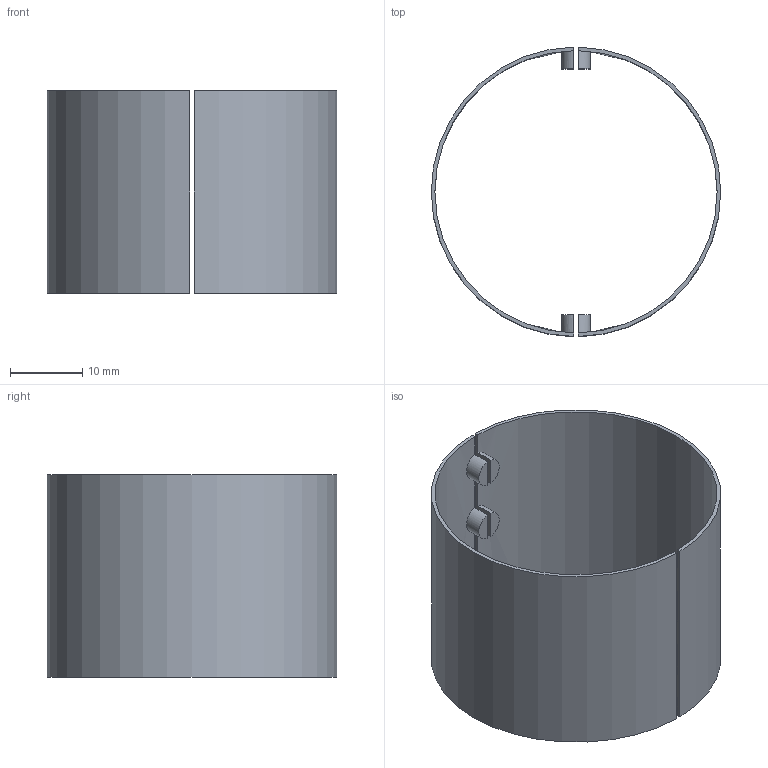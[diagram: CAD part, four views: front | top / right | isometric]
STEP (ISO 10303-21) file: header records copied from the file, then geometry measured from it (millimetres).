
FILE_DESCRIPTION(('Open CASCADE Model'),'2;1');
FILE_NAME('Open CASCADE Shape Model','2026-09-22T23:00:06',('Author'),( 'Open CASCADE'),'Open CASCADE STEP processor 7.9','Open CASCADE 7.9' ,'Unknown');
FILE_SCHEMA(('AUTOMOTIVE_DESIGN { 1 0 10303 214 1 1 1 1 }'));
Length unit declared in the file: millimetre
Products named in the file (3): Open CASCADE STEP translator 7.9 7; Open CASCADE STEP translator 7.9 7.1; Open CASCADE STEP translator 7.9 7.2
Assembly tree (2 placements, depth 2):
  Open CASCADE STEP translator 7.9 7
    Open CASCADE STEP translator 7.9 7.1
    Open CASCADE STEP translator 7.9 7.2
Bounding box: 40 x 40 x 28 mm (x, y, z)
Volume: 1871.2 mm3; surface area: 7345.9 mm2
Topology: 2 solids, 2 shells, 36 faces, 96 edges, 64 vertices
Faces by surface type: plane 20, cylinder 16
Entity records: 3802 total; most frequent: CARTESIAN_POINT 2115, DIRECTION 220, ORIENTED_EDGE 192, PCURVE 192, DEFINITIONAL_REPRESENTATION 192, B_SPLINE_CURVE_WITH_KNOTS 164, EDGE_CURVE 96, SURFACE_CURVE 96
